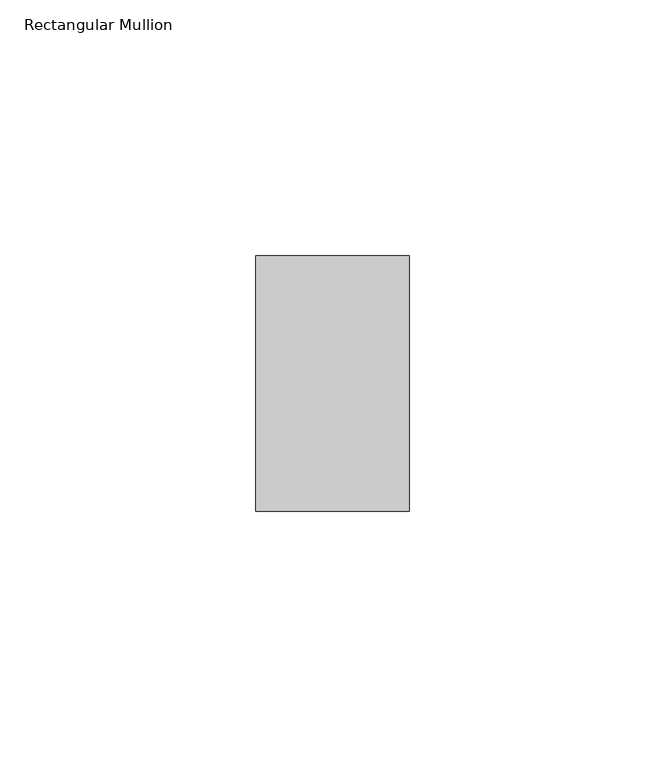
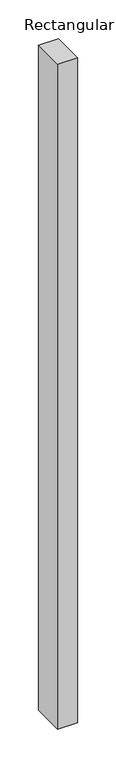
"""IFC4 building model written with IfcOpenShell, lengths in millimetres: member geometry, Rectangular Mullion : ARQ_TV_MULL_50x30mm."""

from ifc_helpers import new_model, si_unit, frame, origin, place, context, project, spatial, polyline, outline, extrude, source, transform, mapped, element, save


def rectangular_mullion_f0e0a5df(model_context):
    return source(origin(), model_context, "Body", "SweptSolid", [
        extrude(outline(polyline([(0.0, 25.0), (0.0, -25.0), (-30.0, -25.0), (-30.0, 25.0), (0.0, 25.0)])), frame((0.0, 0.0, -1052.4284367), z_axis=(0.0, 0.0, 1.0), x_axis=(1.0, 0.0, 0.0)), (0.0, 0.0, 1.0), 1052.4284367),
    ])


if __name__ == "__main__":
    model = new_model("IFC4")
    model_context = context("Model", 3, world=origin())
    ifc_project = project(units=[si_unit("LENGTHUNIT", "METRE", prefix="MILLI")], contexts=[model_context])
    site = spatial("IfcSite", under=ifc_project)
    building = spatial("IfcBuilding", under=site)
    placement = place(None, origin())
    rectangular_mullion_shape = rectangular_mullion_f0e0a5df(model_context)
    element("IfcMember", 1, ObjectType="Rectangular Mullion : ARQ_TV_MULL_50x30mm", at=placement, inside=building, context=model_context, shape_type="MappedRepresentation", body=[
        mapped(rectangular_mullion_shape, transform((0.0, 0.0, 0.0), x_axis=(1.0, 0.0, 0.0), y_axis=(0.0, 1.0, 0.0), z_axis=(0.0, 0.0, 1.0))),
    ])
    save(model, "model.ifc")
